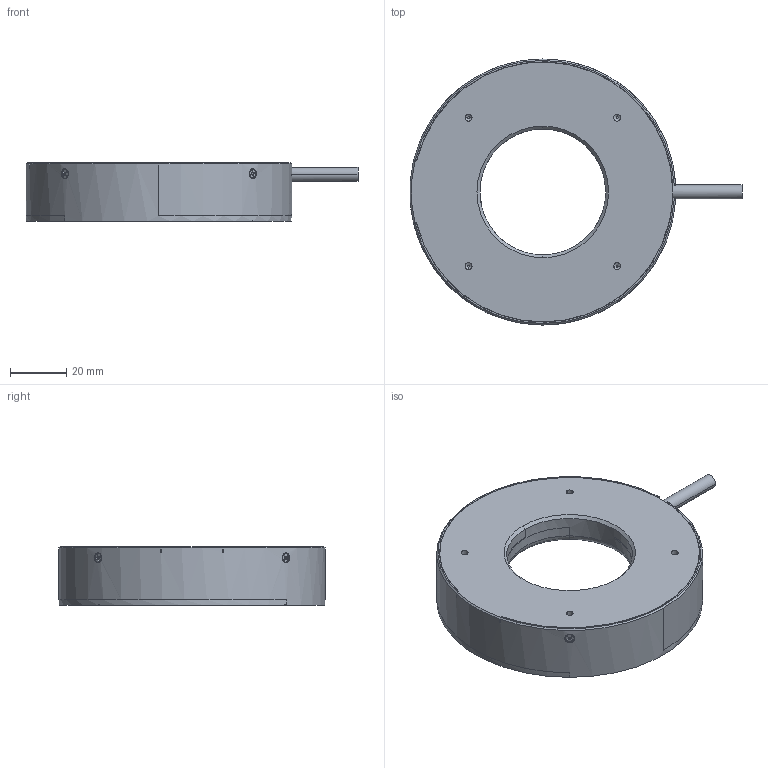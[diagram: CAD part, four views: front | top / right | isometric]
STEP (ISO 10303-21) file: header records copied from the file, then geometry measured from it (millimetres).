
FILE_DESCRIPTION((''),'2;1');
FILE_NAME('MV-LRDS-H-95-60-W','2022-09-02T14:42:05',('qiaoxuan5'),(''),'CREO PARAMETRIC BY PTC INC, 2020044','CREO PARAMETRIC BY PTC INC, 2020044','');
FILE_SCHEMA(('CONFIG_CONTROL_DESIGN'));
Length unit declared in the file: metre
Products named in the file (1): MV-LRDS-H-95-60-W
Bounding box: 118.56 x 95 x 21 mm (x, y, z)
Volume: 97480.2 mm3; surface area: 21385.9 mm2
Topology: 1 solids, 22 shells, 494 faces, 1179 edges, 725 vertices
Faces by surface type: plane 280, cylinder 134, cone 76, torus 4
Entity records: 14618 total; most frequent: CARTESIAN_POINT 3252, DIRECTION 2334, ORIENTED_EDGE 2326, EDGE_CURVE 1163, AXIS2_PLACEMENT_3D 803, VECTOR 728, LINE 728, VERTEX_POINT 725
